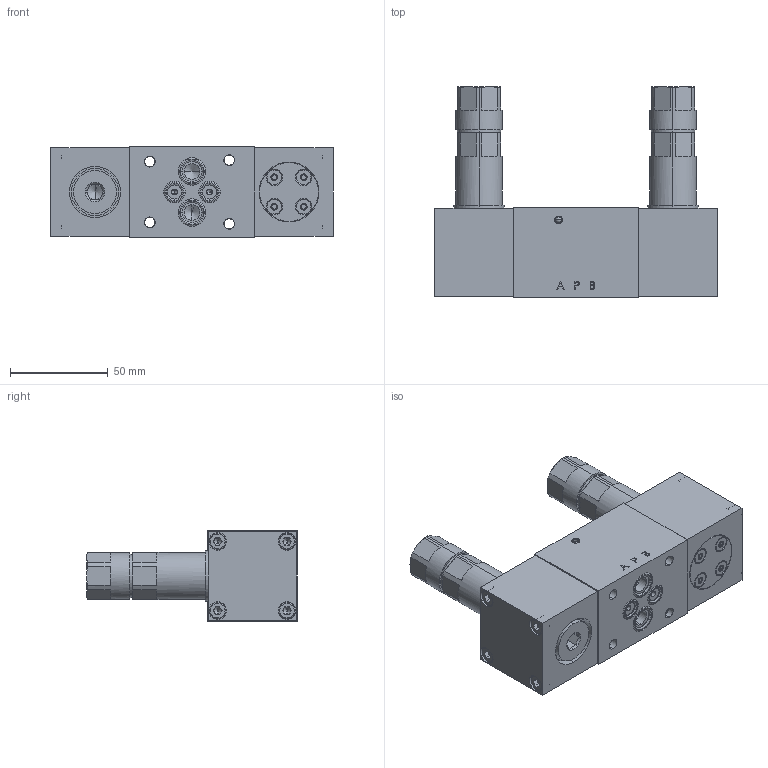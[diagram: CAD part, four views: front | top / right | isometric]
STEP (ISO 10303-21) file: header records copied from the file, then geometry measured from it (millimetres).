
FILE_DESCRIPTION (( 'STEP AP214' ), '1' );
FILE_NAME ('ASPLV62.STEP', '2017-03-22T13:53:18', ( '' ), ( '' ), 'SwSTEP 2.0', 'SolidWorks 2016', '' );
FILE_SCHEMA (( 'AUTOMOTIVE_DESIGN' ));
Length unit declared in the file: millimetre
Products named in the file (1): ASPLV62
Bounding box: 144 x 107.6 x 46 mm (x, y, z)
Volume: 340535.8 mm3; surface area: 64425.2 mm2
Topology: 17 solids, 35 shells, 1749 faces, 4637 edges, 2987 vertices
Faces by surface type: plane 892, cylinder 578, cone 145, bspline 92, torus 34, sphere 8
Entity records: 77552 total; most frequent: CARTESIAN_POINT 14596, DIRECTION 9290, ORIENTED_EDGE 9162, EDGE_CURVE 4581, AXIS2_PLACEMENT_3D 3343, VERTEX_POINT 2987, LINE 2604, VECTOR 2604
